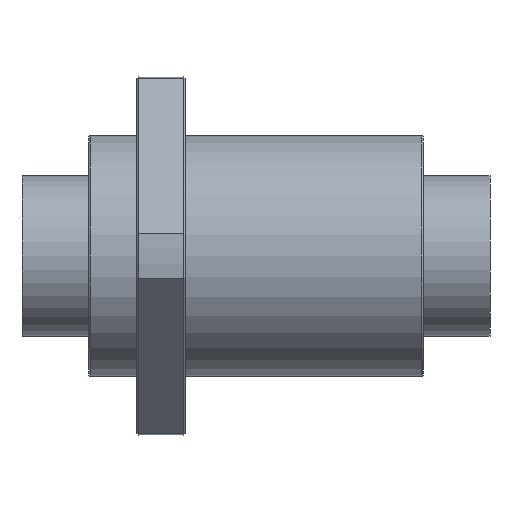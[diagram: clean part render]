
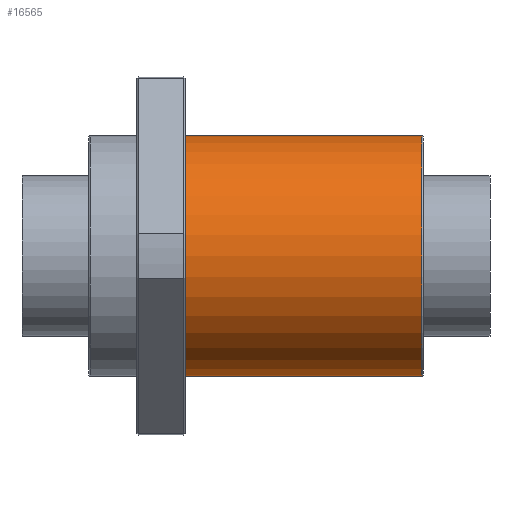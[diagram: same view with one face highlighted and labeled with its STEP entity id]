
A CAD part, left-side view. The second image highlights one B-rep face of the part: STEP entity #16565.
In plain terms, the highlighted cylindrical face has radius 45 mm (diameter 90 mm), a full revolution.
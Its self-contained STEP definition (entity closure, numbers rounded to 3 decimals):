
#2247=CYLINDRICAL_SURFACE('',#16937,45.);
#3415=FACE_OUTER_BOUND('',#4353,.T.);
#4353=EDGE_LOOP('',(#15631,#15632,#15633,#15634,#15635,#15636,#15637));
#5495=LINE('',#29863,#6631);
#6631=VECTOR('',#18785,45.);
#6657=CIRCLE('',#16620,45.);
#6658=CIRCLE('',#16621,45.);
#6713=CIRCLE('',#16938,45.);
#6714=CIRCLE('',#16939,45.);
#6715=CIRCLE('',#16940,45.);
#6755=VERTEX_POINT('',#18892);
#6756=VERTEX_POINT('',#18893);
#8342=VERTEX_POINT('',#29858);
#8343=VERTEX_POINT('',#29859);
#8344=VERTEX_POINT('',#29861);
#8386=EDGE_CURVE('',#6755,#6756,#6657,.T.);
#8387=EDGE_CURVE('',#6756,#6755,#6658,.T.);
#10779=EDGE_CURVE('',#8342,#8343,#6713,.T.);
#10780=EDGE_CURVE('',#8344,#8342,#6714,.T.);
#10781=EDGE_CURVE('',#8344,#6756,#5495,.T.);
#10782=EDGE_CURVE('',#8343,#8344,#6715,.T.);
#15631=ORIENTED_EDGE('',*,*,#10779,.F.);
#15632=ORIENTED_EDGE('',*,*,#10780,.F.);
#15633=ORIENTED_EDGE('',*,*,#10781,.T.);
#15634=ORIENTED_EDGE('',*,*,#8387,.T.);
#15635=ORIENTED_EDGE('',*,*,#8386,.T.);
#15636=ORIENTED_EDGE('',*,*,#10781,.F.);
#15637=ORIENTED_EDGE('',*,*,#10782,.F.);
#16565=ADVANCED_FACE('',(#3415),#2247,.T.);
#16620=AXIS2_PLACEMENT_3D('',#18894,#17024,#17025);
#16621=AXIS2_PLACEMENT_3D('',#18895,#17026,#17027);
#16937=AXIS2_PLACEMENT_3D('',#29857,#18779,#18780);
#16938=AXIS2_PLACEMENT_3D('',#29860,#18781,#18782);
#16939=AXIS2_PLACEMENT_3D('',#29862,#18783,#18784);
#16940=AXIS2_PLACEMENT_3D('',#29864,#18786,#18787);
#17024=DIRECTION('center_axis',(0.,-1.,0.));
#17025=DIRECTION('ref_axis',(1.,0.,0.));
#17026=DIRECTION('center_axis',(0.,-1.,0.));
#17027=DIRECTION('ref_axis',(1.,0.,0.));
#18779=DIRECTION('center_axis',(0.,-1.,0.));
#18780=DIRECTION('ref_axis',(1.,0.,0.));
#18781=DIRECTION('center_axis',(0.,-1.,0.));
#18782=DIRECTION('ref_axis',(1.,0.,0.));
#18783=DIRECTION('center_axis',(0.,-1.,0.));
#18784=DIRECTION('ref_axis',(1.,0.,0.));
#18785=DIRECTION('',(0.,1.,0.));
#18786=DIRECTION('center_axis',(0.,-1.,0.));
#18787=DIRECTION('ref_axis',(1.,0.,0.));
#18892=CARTESIAN_POINT('',(45.,26.5,0.));
#18893=CARTESIAN_POINT('',(-45.,26.5,0.));
#18894=CARTESIAN_POINT('Origin',(0.,26.5,0.));
#18895=CARTESIAN_POINT('Origin',(0.,26.5,0.));
#29857=CARTESIAN_POINT('Origin',(0.,0.,0.));
#29858=CARTESIAN_POINT('',(45.,-62.,0.));
#29859=CARTESIAN_POINT('',(0.,-62.,45.));
#29860=CARTESIAN_POINT('Origin',(0.,-62.,0.));
#29861=CARTESIAN_POINT('',(-45.,-62.,0.));
#29862=CARTESIAN_POINT('Origin',(0.,-62.,0.));
#29863=CARTESIAN_POINT('',(-45.,0.,0.));
#29864=CARTESIAN_POINT('Origin',(0.,-62.,0.));
